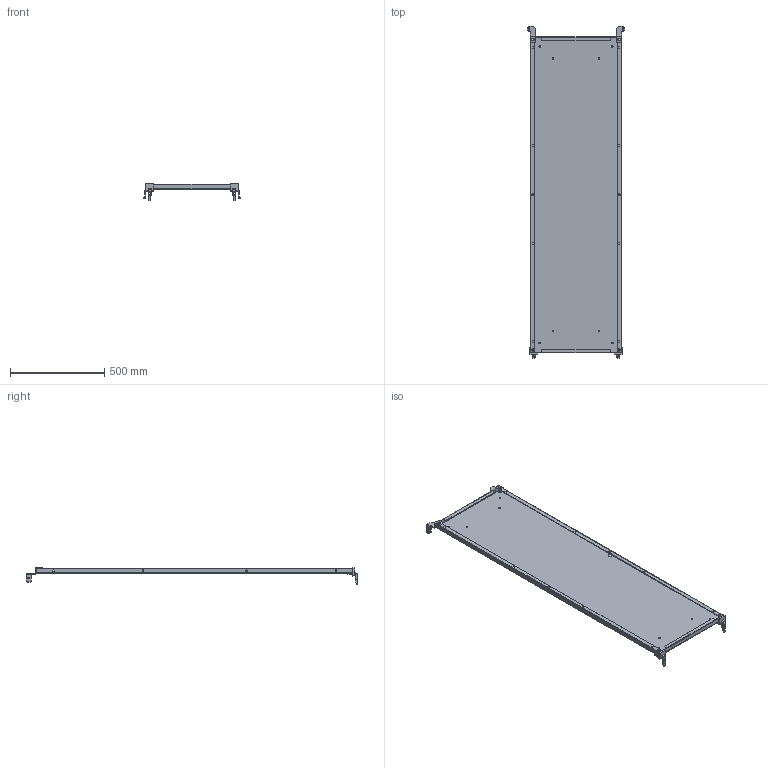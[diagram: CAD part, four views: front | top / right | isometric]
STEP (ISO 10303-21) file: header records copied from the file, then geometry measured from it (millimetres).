
FILE_DESCRIPTION (( 'STEP AP203' ), '1' );
FILE_NAME ('EUPA-060180.STEP', '2017-05-12T13:27:04', ( '' ), ( '' ), 'SwSTEP 2.0', 'SolidWorks 2017', '' );
FILE_SCHEMA (( 'CONFIG_CONTROL_DESIGN' ));
Length unit declared in the file: millimetre
Products named in the file (1): EUPA-060180
Bounding box: 516.2 x 1762.82 x 90.92 mm (x, y, z)
Volume: 2566073.6 mm3; surface area: 2025738.8 mm2
Topology: 1 solids, 1 shells, 328 faces, 918 edges, 598 vertices
Faces by surface type: plane 204, cylinder 118, bspline 6
Entity records: 10893 total; most frequent: CARTESIAN_POINT 2079, ORIENTED_EDGE 1836, DIRECTION 1788, EDGE_CURVE 918, VECTOR 646, LINE 646, VERTEX_POINT 598, AXIS2_PLACEMENT_3D 571
